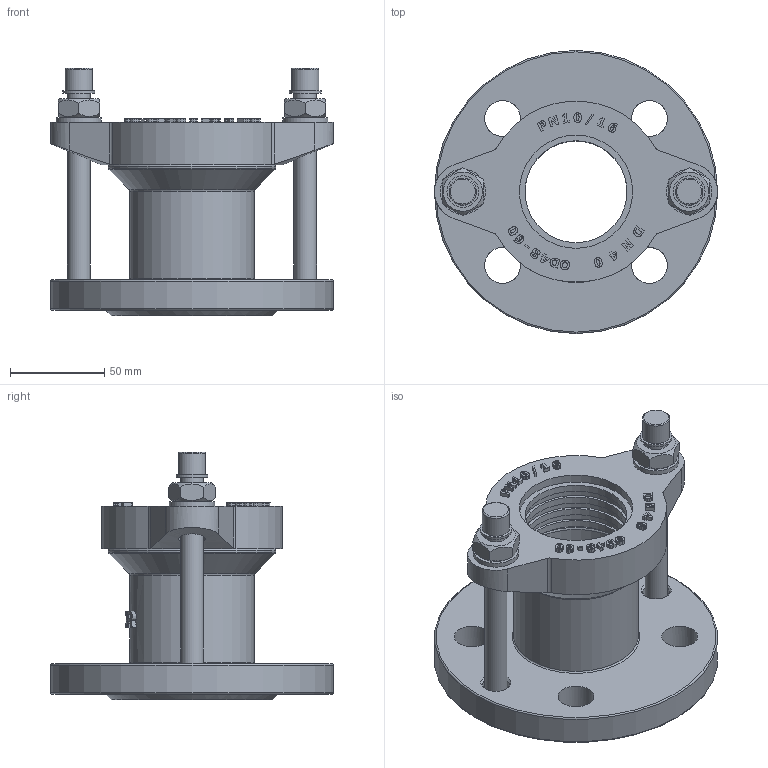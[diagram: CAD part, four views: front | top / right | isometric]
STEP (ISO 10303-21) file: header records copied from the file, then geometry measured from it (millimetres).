
FILE_DESCRIPTION(('STEP AP203'), '1');
FILE_NAME('Ôëàíöåâûé àäàïòåð', '', ('UNSPECIFIED'), ('UNSPECIFIED'), 'C3D Converter', 'C3D Toolkit', '');
FILE_SCHEMA(('CONFIG_CONTROL_DESIGN'));
Length unit declared in the file: millimetre
Assembly tree (11 placements, depth 2):
  (unnamed)
    (unnamed)
    (unnamed)  x2
    (unnamed)  x2
    (unnamed)  x2
    (unnamed)  x2
    (unnamed)
    (unnamed)
Bounding box: 150 x 150 x 131.2 mm (x, y, z)
Volume: 452974.1 mm3; surface area: 139537.2 mm2
Topology: 11 solids, 11 shells, 677 faces, 1743 edges, 1122 vertices
Faces by surface type: extrusion 284, plane 243, cylinder 93, torus 23, cone 18, bspline 8, sphere 8
Full cylindrical faces by diameter (mm): 10.415 x1, 12 x6, 13 x2, 14 x4, 14.4 x2, 16.8 x2, 19 x4, 24 x2, 54 x5, 57 x3, 60 x2, 63 x1, 66 x1, 70 x1, 88.5 x1, 90 x2, 150 x1
Entity records: 27835 total; most frequent: CARTESIAN_POINT 9517, ORIENTED_EDGE 3170, DIRECTION 2169, EDGE_CURVE 1585, VERTEX_POINT 1070, VECTOR 1009, B_SPLINE_CURVE_WITH_KNOTS 889, EDGE_LOOP 773
